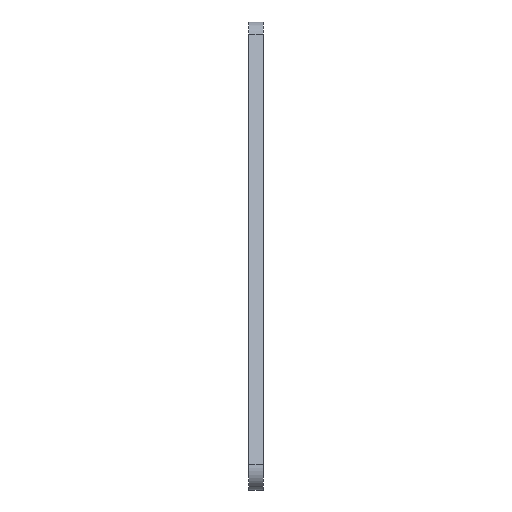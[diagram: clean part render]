
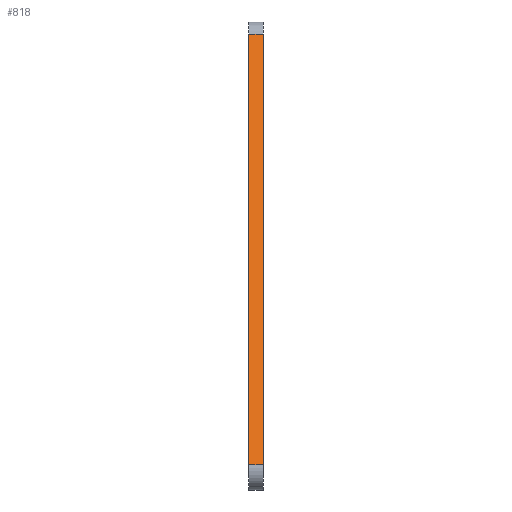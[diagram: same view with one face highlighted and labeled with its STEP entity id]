
A CAD part, front view. The second image highlights one B-rep face of the part: STEP entity #818.
In plain terms, the highlighted planar face has unit normal (0, -0.94, 0.342).
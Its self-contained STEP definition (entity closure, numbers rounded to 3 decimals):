
#44 = PLANE('',#45);
#45 = AXIS2_PLACEMENT_3D('',#46,#47,#48);
#46 = CARTESIAN_POINT('',(115.,57.495,45.082));
#47 = DIRECTION('',(1.,0.,0.));
#48 = DIRECTION('',(-0.,0.,1.));
#72 = CYLINDRICAL_SURFACE('',#73,4.);
#73 = AXIS2_PLACEMENT_3D('',#74,#75,#76);
#74 = CARTESIAN_POINT('',(115.,5.713,4.));
#75 = DIRECTION('',(1.,0.,0.));
#76 = DIRECTION('',(0.,0.,-1.));
#100 = PLANE('',#101);
#101 = AXIS2_PLACEMENT_3D('',#102,#103,#104);
#102 = CARTESIAN_POINT('',(118.,57.495,45.082));
#103 = DIRECTION('',(1.,0.,0.));
#104 = DIRECTION('',(-0.,0.,1.));
#252 = VERTEX_POINT('',#253);
#253 = CARTESIAN_POINT('',(115.,35.439,97.368));
#268 = CYLINDRICAL_SURFACE('',#269,4.);
#269 = AXIS2_PLACEMENT_3D('',#270,#271,#272);
#270 = CARTESIAN_POINT('',(115.,39.198,96.));
#271 = DIRECTION('',(1.,0.,0.));
#272 = DIRECTION('',(0.,-0.,1.));
#280 = EDGE_CURVE('',#252,#281,#283,.T.);
#281 = VERTEX_POINT('',#282);
#282 = CARTESIAN_POINT('',(115.,1.954,5.368));
#283 = SURFACE_CURVE('',#284,(#288,#295),.PCURVE_S1.);
#284 = LINE('',#285,#286);
#285 = CARTESIAN_POINT('',(115.,36.397,100.));
#286 = VECTOR('',#287,1.);
#287 = DIRECTION('',(0.,-0.342,-0.94));
#288 = PCURVE('',#44,#289);
#289 = DEFINITIONAL_REPRESENTATION('',(#290),#294);
#290 = LINE('',#291,#292);
#291 = CARTESIAN_POINT('',(54.918,21.098));
#292 = VECTOR('',#293,1.);
#293 = DIRECTION('',(-0.94,0.342));
#294 = ( GEOMETRIC_REPRESENTATION_CONTEXT(2) 
PARAMETRIC_REPRESENTATION_CONTEXT() REPRESENTATION_CONTEXT('2D SPACE',''
  ) );
#295 = PCURVE('',#296,#301);
#296 = PLANE('',#297);
#297 = AXIS2_PLACEMENT_3D('',#298,#299,#300);
#298 = CARTESIAN_POINT('',(115.,36.397,100.));
#299 = DIRECTION('',(0.,0.94,-0.342));
#300 = DIRECTION('',(0.,-0.342,-0.94));
#301 = DEFINITIONAL_REPRESENTATION('',(#302),#306);
#302 = LINE('',#303,#304);
#303 = CARTESIAN_POINT('',(0.,0.));
#304 = VECTOR('',#305,1.);
#305 = DIRECTION('',(1.,0.));
#306 = ( GEOMETRIC_REPRESENTATION_CONTEXT(2) 
PARAMETRIC_REPRESENTATION_CONTEXT() REPRESENTATION_CONTEXT('2D SPACE',''
  ) );
#478 = EDGE_CURVE('',#281,#479,#481,.T.);
#479 = VERTEX_POINT('',#480);
#480 = CARTESIAN_POINT('',(118.,1.954,5.368));
#481 = SURFACE_CURVE('',#482,(#486,#493),.PCURVE_S1.);
#482 = LINE('',#483,#484);
#483 = CARTESIAN_POINT('',(115.,1.954,5.368));
#484 = VECTOR('',#485,1.);
#485 = DIRECTION('',(1.,0.,0.));
#486 = PCURVE('',#72,#487);
#487 = DEFINITIONAL_REPRESENTATION('',(#488),#492);
#488 = LINE('',#489,#490);
#489 = CARTESIAN_POINT('',(-1.92,0.));
#490 = VECTOR('',#491,1.);
#491 = DIRECTION('',(-0.,1.));
#492 = ( GEOMETRIC_REPRESENTATION_CONTEXT(2) 
PARAMETRIC_REPRESENTATION_CONTEXT() REPRESENTATION_CONTEXT('2D SPACE',''
  ) );
#493 = PCURVE('',#296,#494);
#494 = DEFINITIONAL_REPRESENTATION('',(#495),#499);
#495 = LINE('',#496,#497);
#496 = CARTESIAN_POINT('',(100.705,0.));
#497 = VECTOR('',#498,1.);
#498 = DIRECTION('',(0.,-1.));
#499 = ( GEOMETRIC_REPRESENTATION_CONTEXT(2) 
PARAMETRIC_REPRESENTATION_CONTEXT() REPRESENTATION_CONTEXT('2D SPACE',''
  ) );
#654 = VERTEX_POINT('',#655);
#655 = CARTESIAN_POINT('',(118.,35.439,97.368));
#677 = EDGE_CURVE('',#654,#479,#678,.T.);
#678 = SURFACE_CURVE('',#679,(#683,#690),.PCURVE_S1.);
#679 = LINE('',#680,#681);
#680 = CARTESIAN_POINT('',(118.,36.397,100.));
#681 = VECTOR('',#682,1.);
#682 = DIRECTION('',(0.,-0.342,-0.94));
#683 = PCURVE('',#100,#684);
#684 = DEFINITIONAL_REPRESENTATION('',(#685),#689);
#685 = LINE('',#686,#687);
#686 = CARTESIAN_POINT('',(54.918,21.098));
#687 = VECTOR('',#688,1.);
#688 = DIRECTION('',(-0.94,0.342));
#689 = ( GEOMETRIC_REPRESENTATION_CONTEXT(2) 
PARAMETRIC_REPRESENTATION_CONTEXT() REPRESENTATION_CONTEXT('2D SPACE',''
  ) );
#690 = PCURVE('',#296,#691);
#691 = DEFINITIONAL_REPRESENTATION('',(#692),#696);
#692 = LINE('',#693,#694);
#693 = CARTESIAN_POINT('',(0.,-3.));
#694 = VECTOR('',#695,1.);
#695 = DIRECTION('',(1.,0.));
#696 = ( GEOMETRIC_REPRESENTATION_CONTEXT(2) 
PARAMETRIC_REPRESENTATION_CONTEXT() REPRESENTATION_CONTEXT('2D SPACE',''
  ) );
#818 = ADVANCED_FACE('',(#819),#296,.F.);
#819 = FACE_BOUND('',#820,.F.);
#820 = EDGE_LOOP('',(#821,#822,#843,#844));
#821 = ORIENTED_EDGE('',*,*,#280,.F.);
#822 = ORIENTED_EDGE('',*,*,#823,.T.);
#823 = EDGE_CURVE('',#252,#654,#824,.T.);
#824 = SURFACE_CURVE('',#825,(#829,#836),.PCURVE_S1.);
#825 = LINE('',#826,#827);
#826 = CARTESIAN_POINT('',(115.,35.439,97.368));
#827 = VECTOR('',#828,1.);
#828 = DIRECTION('',(1.,0.,0.));
#829 = PCURVE('',#296,#830);
#830 = DEFINITIONAL_REPRESENTATION('',(#831),#835);
#831 = LINE('',#832,#833);
#832 = CARTESIAN_POINT('',(2.801,0.));
#833 = VECTOR('',#834,1.);
#834 = DIRECTION('',(0.,-1.));
#835 = ( GEOMETRIC_REPRESENTATION_CONTEXT(2) 
PARAMETRIC_REPRESENTATION_CONTEXT() REPRESENTATION_CONTEXT('2D SPACE',''
  ) );
#836 = PCURVE('',#268,#837);
#837 = DEFINITIONAL_REPRESENTATION('',(#838),#842);
#838 = LINE('',#839,#840);
#839 = CARTESIAN_POINT('',(1.222,0.));
#840 = VECTOR('',#841,1.);
#841 = DIRECTION('',(0.,1.));
#842 = ( GEOMETRIC_REPRESENTATION_CONTEXT(2) 
PARAMETRIC_REPRESENTATION_CONTEXT() REPRESENTATION_CONTEXT('2D SPACE',''
  ) );
#843 = ORIENTED_EDGE('',*,*,#677,.T.);
#844 = ORIENTED_EDGE('',*,*,#478,.F.);
